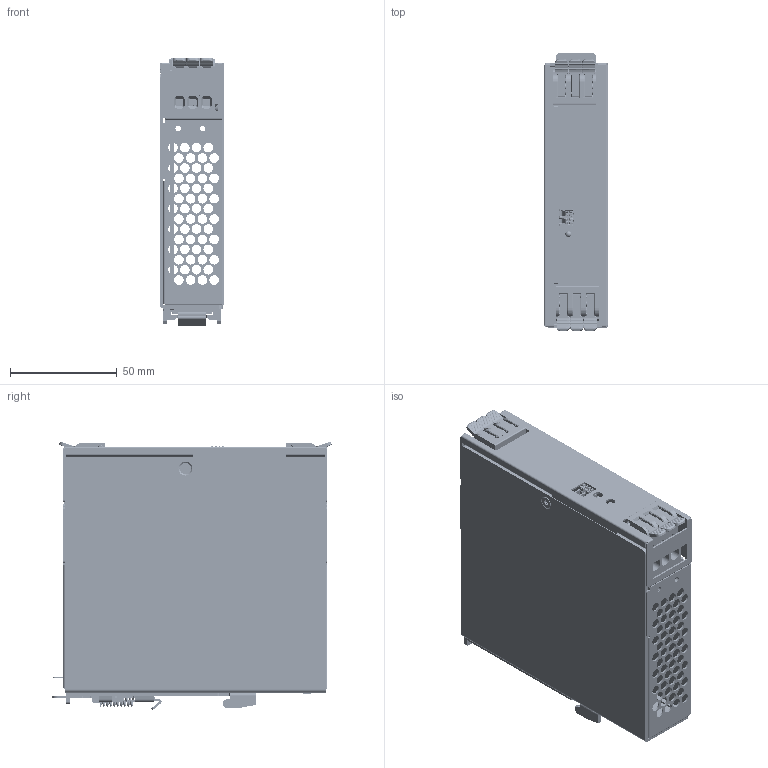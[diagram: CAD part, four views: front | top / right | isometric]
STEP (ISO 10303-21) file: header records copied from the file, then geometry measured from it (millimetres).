
FILE_DESCRIPTION((''),'2;1');
FILE_NAME('CASE_ASM_250_ASM_3_ASM','2023-11-20T14:40:31',('JOSH.LEE'),(''),'CREO PARAMETRIC BY PTC INC, 2020454','CREO PARAMETRIC BY PTC INC, 2020454','');
FILE_SCHEMA(('CONFIG_CONTROL_DESIGN','GEOMETRIC_VALIDATION_PROPERTIES_MIM'));
Products named in the file (32): CHASSIS_180_1; NEW_BRACKET_12_15_1; SMAL_BRACKET_13_10_1; 75W_CASE_ASSY_ASM_17_ASM_1_ASM__ASM; SPRING_3_1; CLIP_ASM_9_ASM_1_ASM; 120W-PWB_191_1; 120WAC-PWB_127_1; LED_HORIZONTAL_2_1; CHASSIS-STANDOFF_11_1; 480W_NM02100A000G_4_1; 3105469000-L6_2_1; 0604102618_1_1; COVER-120W1GTA_2; MSBR-16_1_1; MSBR-15_1_1; MSBR-14_1_1; MSBR-13_1_1; MSBR-12_1_2; MSBR-11_1_1; MSBR-10_1_1; MSBR-9_1_1; MSBR-8_1_1; MSBR-7_1_1; MSBR-6_1_1; MSBR-5_1_1; MSBR-4_1_1; MSBR-3_1_1; MSBR-2_1_1; MSBR-1_1_1; N6_3P_ASM_ASM_1_ASM_1_ASM; CASE_ASM_250_ASM_3_ASM
Assembly tree (36 placements, depth 4):
  CASE_ASM_250_ASM_3_ASM
    CHASSIS_180_1
    CLIP_ASM_9_ASM_1_ASM
      75W_CASE_ASSY_ASM_17_ASM_1_ASM__ASM
        NEW_BRACKET_12_15_1
        SMAL_BRACKET_13_10_1
      SPRING_3_1
    120W-PWB_191_1
    120WAC-PWB_127_1
    LED_HORIZONTAL_2_1
    CHASSIS-STANDOFF_11_1
    480W_NM02100A000G_4_1
    3105469000-L6_2_1  x5
    0604102618_1_1
    COVER-120W1GTA_2
    N6_3P_ASM_ASM_1_ASM_1_ASM  x2
      MSBR-16_1_1
      MSBR-15_1_1
      MSBR-14_1_1
      MSBR-13_1_1
      MSBR-12_1_2
      MSBR-11_1_1
      MSBR-10_1_1
      MSBR-9_1_1
      MSBR-8_1_1
      MSBR-7_1_1
      MSBR-6_1_1
      MSBR-5_1_1
      MSBR-4_1_1
      MSBR-3_1_1
      MSBR-2_1_1
      MSBR-1_1_1
Bounding box: 30 x 130.8 x 125.69 mm (x, y, z)
Volume: 82518.2 mm3; surface area: 146496.8 mm2
Topology: 48 solids, 54 shells, 9354 faces, 25535 edges, 16458 vertices
Faces by surface type: plane 4673, cylinder 3225, cone 584, bspline 407, torus 405, sphere 46, extrusion 14
Entity records: 221370 total; most frequent: CARTESIAN_POINT 61693, ORIENTED_EDGE 30770, DIRECTION 30556, EDGE_CURVE 15385, AXIS2_PLACEMENT_3D 10471, VERTEX_POINT 9931, VECTOR 9614, LINE 9605
